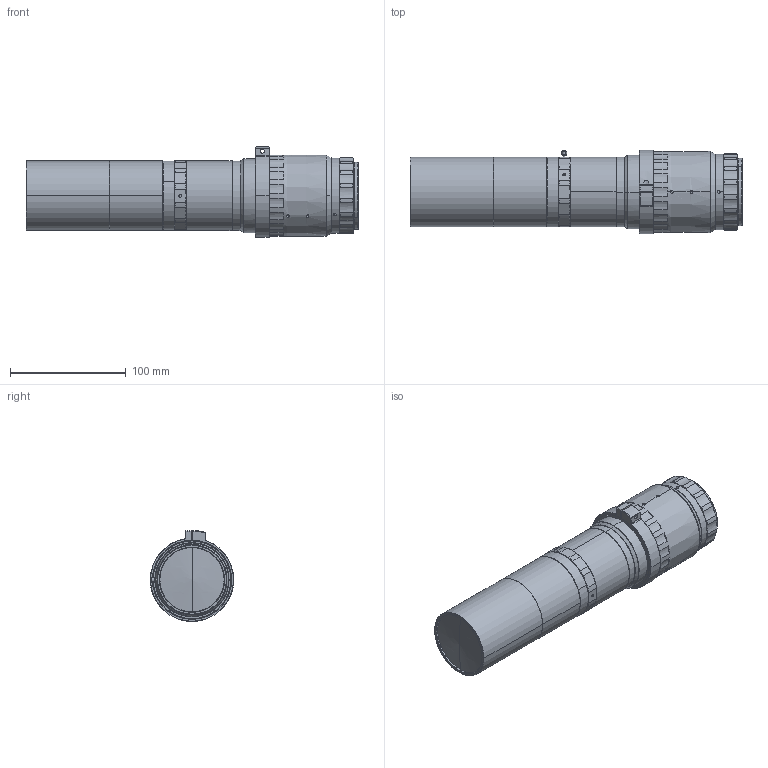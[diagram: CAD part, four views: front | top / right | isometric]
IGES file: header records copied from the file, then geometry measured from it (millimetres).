
Start section: SolidWorks IGES file using analytic representation for surfaces
Global section: file name: D:\BaiduSyncdisk\1-产品  2022-new\DTCA（2021.1.7.整体考过来）\--35F大倍率--\2X-DTCA35F-22-非同轴\3D-可变换\DTCA35F-22-G-M58-AL.IGS; native system: SolidWorks 2017; preprocessor: SolidWorks 2017; author: Coolens; date: 230302.211543; units: millimetre
Bounding box: 286.51 x 72 x 78.49 mm (x, y, z)
Surface area: 77618.7 mm2 (no closed solid volume)
Topology: 0 solids, 0 shells, 490 faces, 6911 edges, 6907 vertices
Faces by surface type: revolution 356, bspline 134
